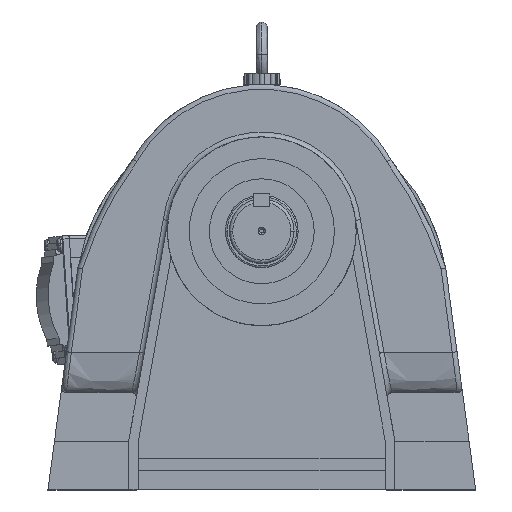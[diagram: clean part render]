
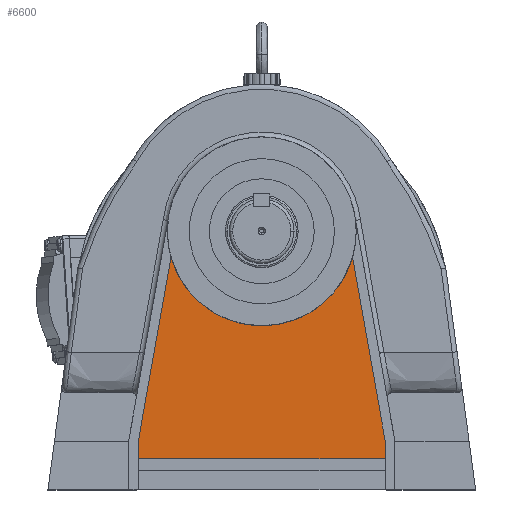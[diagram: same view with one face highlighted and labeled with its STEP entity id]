
A CAD part, top view. The second image highlights one B-rep face of the part: STEP entity #6600.
In plain terms, the highlighted planar face has unit normal (0, 0, 1).
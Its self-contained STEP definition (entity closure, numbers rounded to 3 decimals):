
#1739 = VECTOR ( 'NONE', #49749, 1000. ) ;
#4642 = EDGE_CURVE ( 'NONE', #29998, #24487, #43456, .T. ) ;
#5988 = CARTESIAN_POINT ( 'NONE',  ( 0., 160., 172. ) ) ;
#6269 = CARTESIAN_POINT ( 'NONE',  ( 76.5, 30., 172. ) ) ;
#6440 = CARTESIAN_POINT ( 'NONE',  ( -56.261, 143.972, 172. ) ) ;
#6600 = ADVANCED_FACE ( 'NONE', ( #39156 ), #17273, .T. ) ;
#6806 = DIRECTION ( 'NONE',  ( -0.175, -0.985, 0. ) ) ;
#10419 = DIRECTION ( 'NONE',  ( 1., 0., 0. ) ) ;
#11763 = LINE ( 'NONE', #64163, #45503 ) ;
#11857 = DIRECTION ( 'NONE',  ( 0., 1., 0. ) ) ;
#12749 = DIRECTION ( 'NONE',  ( 1., 0., 0. ) ) ;
#13481 = AXIS2_PLACEMENT_3D ( 'NONE', #17110, #16804, #16697 ) ;
#16697 = DIRECTION ( 'NONE',  ( 1., 0., 0. ) ) ;
#16804 = DIRECTION ( 'NONE',  ( 0., 0., 1. ) ) ;
#17110 = CARTESIAN_POINT ( 'NONE',  ( 0., 160., 172. ) ) ;
#17273 = PLANE ( 'NONE',  #13481 ) ;
#19636 = LINE ( 'NONE', #29075, #1739 ) ;
#20986 = LINE ( 'NONE', #81757, #23042 ) ;
#21510 = EDGE_CURVE ( 'NONE', #24487, #45237, #19636, .T. ) ;
#23042 = VECTOR ( 'NONE', #41163, 1000. ) ;
#24487 = VERTEX_POINT ( 'NONE', #50729 ) ;
#29075 = CARTESIAN_POINT ( 'NONE',  ( -76.5, 30., 172. ) ) ;
#29121 = EDGE_LOOP ( 'NONE', ( #44075, #75677, #31325, #34114, #73772, #84222 ) ) ;
#29998 = VERTEX_POINT ( 'NONE', #50420 ) ;
#30359 = VERTEX_POINT ( 'NONE', #74637 ) ;
#30741 = VERTEX_POINT ( 'NONE', #43774 ) ;
#31325 = ORIENTED_EDGE ( 'NONE', *, *, #21510, .T. ) ;
#34114 = ORIENTED_EDGE ( 'NONE', *, *, #77556, .T. ) ;
#39156 = FACE_OUTER_BOUND ( 'NONE', #29121, .T. ) ;
#41163 = DIRECTION ( 'NONE',  ( -0.175, 0.985, 0. ) ) ;
#43456 = LINE ( 'NONE', #6440, #79508 ) ;
#43774 = CARTESIAN_POINT ( 'NONE',  ( 56.261, 143.972, 172. ) ) ;
#44075 = ORIENTED_EDGE ( 'NONE', *, *, #57785, .F. ) ;
#45237 = VERTEX_POINT ( 'NONE', #70330 ) ;
#45503 = VECTOR ( 'NONE', #10419, 1000. ) ;
#45818 = EDGE_CURVE ( 'NONE', #30359, #76783, #48863, .T. ) ;
#48863 = LINE ( 'NONE', #6269, #60539 ) ;
#48893 = CIRCLE ( 'NONE', #86759, 58.5 ) ;
#49749 = DIRECTION ( 'NONE',  ( 0., -1., 0. ) ) ;
#50420 = CARTESIAN_POINT ( 'NONE',  ( -56.261, 143.972, 172. ) ) ;
#50729 = CARTESIAN_POINT ( 'NONE',  ( -76.5, 30., 172. ) ) ;
#53134 = DIRECTION ( 'NONE',  ( 0., 0., 1. ) ) ;
#57785 = EDGE_CURVE ( 'NONE', #29998, #30741, #48893, .T. ) ;
#60539 = VECTOR ( 'NONE', #11857, 1000. ) ;
#61130 = EDGE_CURVE ( 'NONE', #76783, #30741, #20986, .T. ) ;
#64163 = CARTESIAN_POINT ( 'NONE',  ( -76.5, 19., 172. ) ) ;
#70330 = CARTESIAN_POINT ( 'NONE',  ( -76.5, 19., 172. ) ) ;
#70772 = CARTESIAN_POINT ( 'NONE',  ( 76.5, 30., 172. ) ) ;
#73772 = ORIENTED_EDGE ( 'NONE', *, *, #45818, .T. ) ;
#74637 = CARTESIAN_POINT ( 'NONE',  ( 76.5, 19., 172. ) ) ;
#75677 = ORIENTED_EDGE ( 'NONE', *, *, #4642, .T. ) ;
#76783 = VERTEX_POINT ( 'NONE', #70772 ) ;
#77556 = EDGE_CURVE ( 'NONE', #45237, #30359, #11763, .T. ) ;
#79508 = VECTOR ( 'NONE', #6806, 1000. ) ;
#81757 = CARTESIAN_POINT ( 'NONE',  ( 76.5, 30., 172. ) ) ;
#84222 = ORIENTED_EDGE ( 'NONE', *, *, #61130, .T. ) ;
#86759 = AXIS2_PLACEMENT_3D ( 'NONE', #5988, #53134, #12749 ) ;
